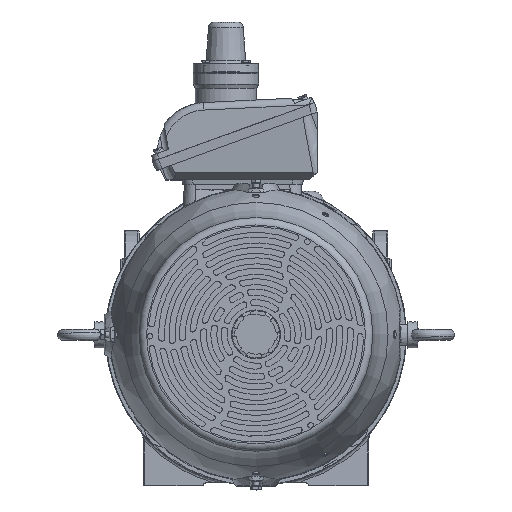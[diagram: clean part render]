
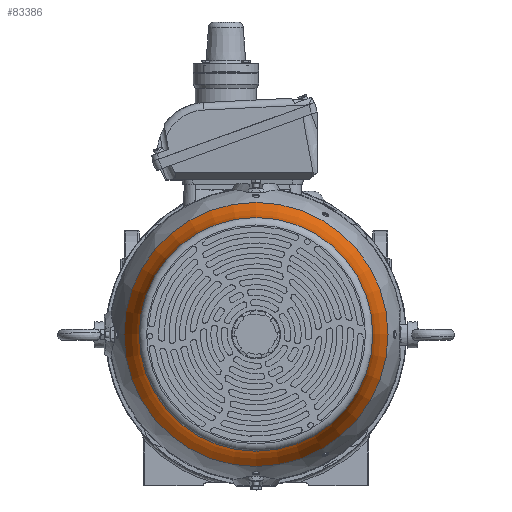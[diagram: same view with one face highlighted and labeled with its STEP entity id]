
A CAD part, top view. The second image highlights one B-rep face of the part: STEP entity #83386.
In plain terms, the highlighted toroidal (fillet/blend) face has major radius 333.581 mm and minor radius 178.663 mm.
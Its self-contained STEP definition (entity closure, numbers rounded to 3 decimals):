
#9767=TOROIDAL_SURFACE('',#89169,333.581,178.663);
#13636=FACE_OUTER_BOUND('',#18501,.T.);
#18501=EDGE_LOOP('',(#64001,#64002,#64003,#64004,#64005,#64006));
#32435=CIRCLE('',#89170,155.304);
#32436=CIRCLE('',#89171,155.304);
#32437=CIRCLE('',#89172,178.663);
#32438=CIRCLE('',#89173,175.502);
#32439=CIRCLE('',#89174,175.502);
#38292=VERTEX_POINT('',#151091);
#38293=VERTEX_POINT('',#151092);
#38294=VERTEX_POINT('',#151095);
#38295=VERTEX_POINT('',#151097);
#47746=EDGE_CURVE('',#38292,#38293,#32435,.T.);
#47747=EDGE_CURVE('',#38293,#38292,#32436,.T.);
#47748=EDGE_CURVE('',#38293,#38294,#32437,.T.);
#47749=EDGE_CURVE('',#38294,#38295,#32438,.T.);
#47750=EDGE_CURVE('',#38295,#38294,#32439,.T.);
#64001=ORIENTED_EDGE('',*,*,#47746,.F.);
#64002=ORIENTED_EDGE('',*,*,#47747,.F.);
#64003=ORIENTED_EDGE('',*,*,#47748,.T.);
#64004=ORIENTED_EDGE('',*,*,#47749,.T.);
#64005=ORIENTED_EDGE('',*,*,#47750,.T.);
#64006=ORIENTED_EDGE('',*,*,#47748,.F.);
#83386=ADVANCED_FACE('',(#13636),#9767,.F.);
#89169=AXIS2_PLACEMENT_3D('',#151090,#101725,#101726);
#89170=AXIS2_PLACEMENT_3D('',#151093,#101727,#101728);
#89171=AXIS2_PLACEMENT_3D('',#151094,#101729,#101730);
#89172=AXIS2_PLACEMENT_3D('',#151096,#101731,#101732);
#89173=AXIS2_PLACEMENT_3D('',#151098,#101733,#101734);
#89174=AXIS2_PLACEMENT_3D('',#151099,#101735,#101736);
#101725=DIRECTION('center_axis',(0.,0.,
1.));
#101726=DIRECTION('ref_axis',(0.,1.,0.));
#101727=DIRECTION('center_axis',(0.,0.,
1.));
#101728=DIRECTION('ref_axis',(0.,1.,0.));
#101729=DIRECTION('center_axis',(0.,0.,
1.));
#101730=DIRECTION('ref_axis',(0.,1.,0.));
#101731=DIRECTION('center_axis',(-1.,0.,0.));
#101732=DIRECTION('ref_axis',(0.,-1.,0.));
#101733=DIRECTION('center_axis',(0.,0.,
1.));
#101734=DIRECTION('ref_axis',(0.,1.,0.));
#101735=DIRECTION('center_axis',(0.,0.,
1.));
#101736=DIRECTION('ref_axis',(0.,1.,0.));
#151090=CARTESIAN_POINT('Origin',(0.,0.,
778.528));
#151091=CARTESIAN_POINT('',(0.,155.304,766.784));
#151092=CARTESIAN_POINT('',(0.,-155.304,766.784));
#151093=CARTESIAN_POINT('Origin',(0.,0.,
766.784));
#151094=CARTESIAN_POINT('Origin',(0.,0.,
766.784));
#151095=CARTESIAN_POINT('',(0.,-175.502,695.273));
#151096=CARTESIAN_POINT('Origin',(0.,-333.581,
778.528));
#151097=CARTESIAN_POINT('',(0.,175.502,695.273));
#151098=CARTESIAN_POINT('Origin',(0.,0.,
695.273));
#151099=CARTESIAN_POINT('Origin',(0.,0.,
695.273));
